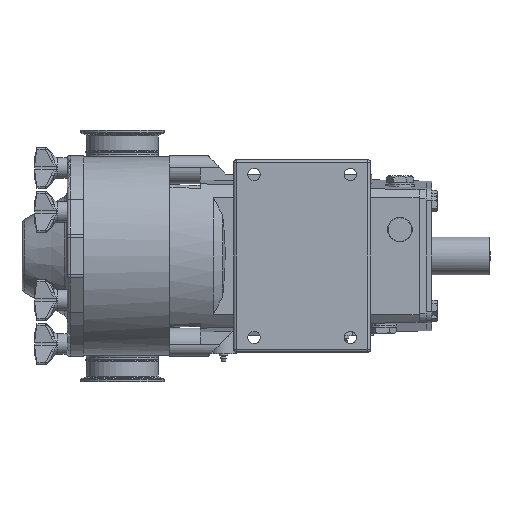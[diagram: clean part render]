
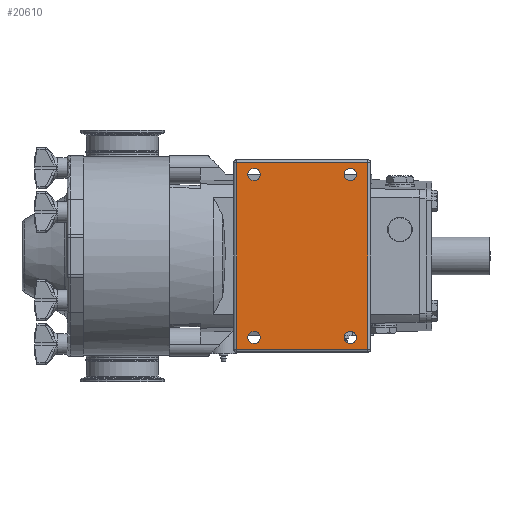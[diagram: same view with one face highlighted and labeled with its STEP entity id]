
A CAD part, front view. The second image highlights one B-rep face of the part: STEP entity #20610.
In plain terms, the highlighted planar face has unit normal (0, -1, 0).
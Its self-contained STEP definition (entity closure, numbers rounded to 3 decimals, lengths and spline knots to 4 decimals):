
#544=FACE_BOUND('',#3241,.T.);
#545=FACE_BOUND('',#3242,.T.);
#546=FACE_BOUND('',#3243,.T.);
#547=FACE_BOUND('',#3244,.T.);
#974=PLANE('',#22081);
#1962=FACE_OUTER_BOUND('',#3240,.T.);
#3240=EDGE_LOOP('',(#15991,#15992,#15993,#15994));
#3241=EDGE_LOOP('',(#15995));
#3242=EDGE_LOOP('',(#15996));
#3243=EDGE_LOOP('',(#15997));
#3244=EDGE_LOOP('',(#15998));
#4997=LINE('',#37921,#6702);
#5000=LINE('',#37933,#6705);
#5101=LINE('',#40296,#6806);
#5102=LINE('',#40297,#6807);
#6702=VECTOR('',#24402,5.64);
#6705=VECTOR('',#24413,5.64);
#6806=VECTOR('',#24788,8.01);
#6807=VECTOR('',#24789,8.01);
#8377=CIRCLE('',#21934,0.2656);
#8379=CIRCLE('',#21937,0.2656);
#8385=CIRCLE('',#21946,0.2656);
#8387=CIRCLE('',#21949,0.2656);
#9348=VERTEX_POINT('',#37905);
#9350=VERTEX_POINT('',#37911);
#9353=VERTEX_POINT('',#37918);
#9354=VERTEX_POINT('',#37920);
#9356=VERTEX_POINT('',#37926);
#9359=VERTEX_POINT('',#37931);
#9360=VERTEX_POINT('',#37935);
#9362=VERTEX_POINT('',#37941);
#11673=EDGE_CURVE('',#9348,#9348,#8377,.T.);
#11676=EDGE_CURVE('',#9350,#9350,#8379,.T.);
#11680=EDGE_CURVE('',#9354,#9353,#4997,.T.);
#11686=EDGE_CURVE('',#9356,#9359,#5000,.F.);
#11687=EDGE_CURVE('',#9360,#9360,#8385,.T.);
#11690=EDGE_CURVE('',#9362,#9362,#8387,.T.);
#11934=EDGE_CURVE('',#9353,#9356,#5101,.F.);
#11935=EDGE_CURVE('',#9359,#9354,#5102,.T.);
#15991=ORIENTED_EDGE('',*,*,#11934,.T.);
#15992=ORIENTED_EDGE('',*,*,#11686,.T.);
#15993=ORIENTED_EDGE('',*,*,#11935,.T.);
#15994=ORIENTED_EDGE('',*,*,#11680,.T.);
#15995=ORIENTED_EDGE('',*,*,#11676,.F.);
#15996=ORIENTED_EDGE('',*,*,#11673,.F.);
#15997=ORIENTED_EDGE('',*,*,#11690,.F.);
#15998=ORIENTED_EDGE('',*,*,#11687,.F.);
#20610=ADVANCED_FACE('',(#1962,#544,#545,#546,#547),#974,.T.);
#21934=AXIS2_PLACEMENT_3D('',#37906,#24386,#24387);
#21937=AXIS2_PLACEMENT_3D('',#37912,#24393,#24394);
#21946=AXIS2_PLACEMENT_3D('',#37936,#24416,#24417);
#21949=AXIS2_PLACEMENT_3D('',#37942,#24423,#24424);
#22081=AXIS2_PLACEMENT_3D('',#40295,#24786,#24787);
#24386=DIRECTION('center_axis',(0.,-1.,0.));
#24387=DIRECTION('ref_axis',(-1.,0.,0.));
#24393=DIRECTION('center_axis',(0.,-1.,0.));
#24394=DIRECTION('ref_axis',(-1.,0.,0.));
#24402=DIRECTION('',(1.,0.,0.));
#24413=DIRECTION('',(1.,0.,0.));
#24416=DIRECTION('center_axis',(0.,-1.,0.));
#24417=DIRECTION('ref_axis',(-1.,0.,0.));
#24423=DIRECTION('center_axis',(0.,-1.,0.));
#24424=DIRECTION('ref_axis',(-1.,0.,0.));
#24786=DIRECTION('center_axis',(0.,-1.,0.));
#24787=DIRECTION('ref_axis',(0.,0.,-1.));
#24788=DIRECTION('',(0.,0.,-1.));
#24789=DIRECTION('',(0.,0.,-1.));
#37905=CARTESIAN_POINT('',(3.3544,-7.31,-3.5));
#37906=CARTESIAN_POINT('Origin',(3.62,-7.31,-3.5));
#37911=CARTESIAN_POINT('',(7.4794,-7.31,-3.5));
#37912=CARTESIAN_POINT('Origin',(7.745,-7.31,-3.5));
#37918=CARTESIAN_POINT('',(8.505,-7.31,-4.005));
#37920=CARTESIAN_POINT('',(2.865,-7.31,-4.005));
#37921=CARTESIAN_POINT('',(2.865,-7.31,-4.005));
#37926=CARTESIAN_POINT('',(8.505,-7.31,4.005));
#37931=CARTESIAN_POINT('',(2.865,-7.31,4.005));
#37933=CARTESIAN_POINT('',(2.865,-7.31,4.005));
#37935=CARTESIAN_POINT('',(3.3544,-7.31,3.5));
#37936=CARTESIAN_POINT('Origin',(3.62,-7.31,3.5));
#37941=CARTESIAN_POINT('',(7.4794,-7.31,3.5));
#37942=CARTESIAN_POINT('Origin',(7.745,-7.31,3.5));
#40295=CARTESIAN_POINT('Origin',(2.745,-7.31,4.125));
#40296=CARTESIAN_POINT('',(8.505,-7.31,4.005));
#40297=CARTESIAN_POINT('',(2.865,-7.31,4.005));
